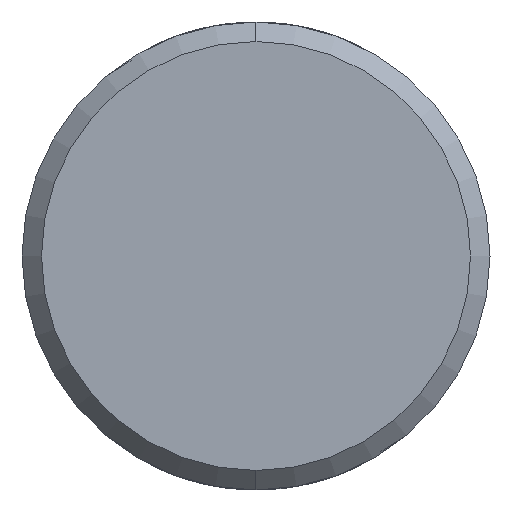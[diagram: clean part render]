
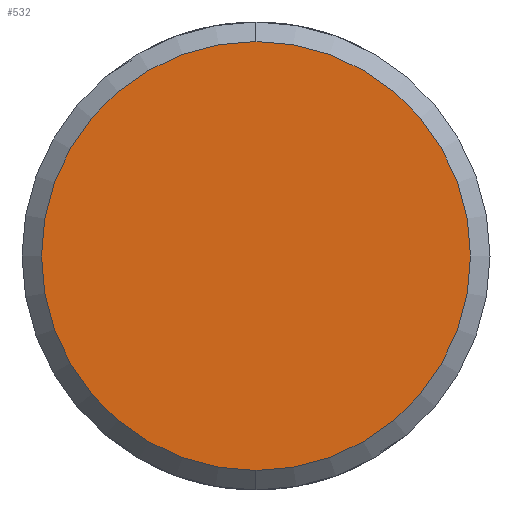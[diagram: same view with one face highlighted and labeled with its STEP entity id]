
A CAD part, left-side view. The second image highlights one B-rep face of the part: STEP entity #532.
In plain terms, the highlighted planar face has unit normal (-1, 0, 0).
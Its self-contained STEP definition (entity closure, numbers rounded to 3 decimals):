
#61 = ORIENTED_EDGE ( 'NONE', *, *, #809, .T. ) ;
#85 = DIRECTION ( 'NONE',  ( 0., 0., -1. ) ) ;
#171 = DIRECTION ( 'NONE',  ( -1., 0., 0. ) ) ;
#212 = CIRCLE ( 'NONE', #815, 5.5 ) ;
#226 = AXIS2_PLACEMENT_3D ( 'NONE', #641, #248, #788 ) ;
#248 = DIRECTION ( 'NONE',  ( 1., 0., 0. ) ) ;
#253 = PLANE ( 'NONE',  #226 ) ;
#292 = FACE_OUTER_BOUND ( 'NONE', #520, .T. ) ;
#299 = CARTESIAN_POINT ( 'NONE',  ( -247., 0., 5.5 ) ) ;
#304 = CARTESIAN_POINT ( 'NONE',  ( -247., 0., -5.5 ) ) ;
#369 = AXIS2_PLACEMENT_3D ( 'NONE', #769, #945, #85 ) ;
#390 = VERTEX_POINT ( 'NONE', #299 ) ;
#401 = EDGE_CURVE ( 'NONE', #977, #390, #891, .T. ) ;
#405 = CARTESIAN_POINT ( 'NONE',  ( -247., 0., 0. ) ) ;
#482 = DIRECTION ( 'NONE',  ( 0., 0., -1. ) ) ;
#520 = EDGE_LOOP ( 'NONE', ( #712, #61 ) ) ;
#532 = ADVANCED_FACE ( 'NONE', ( #292 ), #253, .F. ) ;
#641 = CARTESIAN_POINT ( 'NONE',  ( -247., 0., 0. ) ) ;
#712 = ORIENTED_EDGE ( 'NONE', *, *, #401, .T. ) ;
#769 = CARTESIAN_POINT ( 'NONE',  ( -247., 0., 0. ) ) ;
#788 = DIRECTION ( 'NONE',  ( 0., 0., -1. ) ) ;
#809 = EDGE_CURVE ( 'NONE', #390, #977, #212, .T. ) ;
#815 = AXIS2_PLACEMENT_3D ( 'NONE', #405, #171, #482 ) ;
#891 = CIRCLE ( 'NONE', #369, 5.5 ) ;
#945 = DIRECTION ( 'NONE',  ( -1., 0., 0. ) ) ;
#977 = VERTEX_POINT ( 'NONE', #304 ) ;
